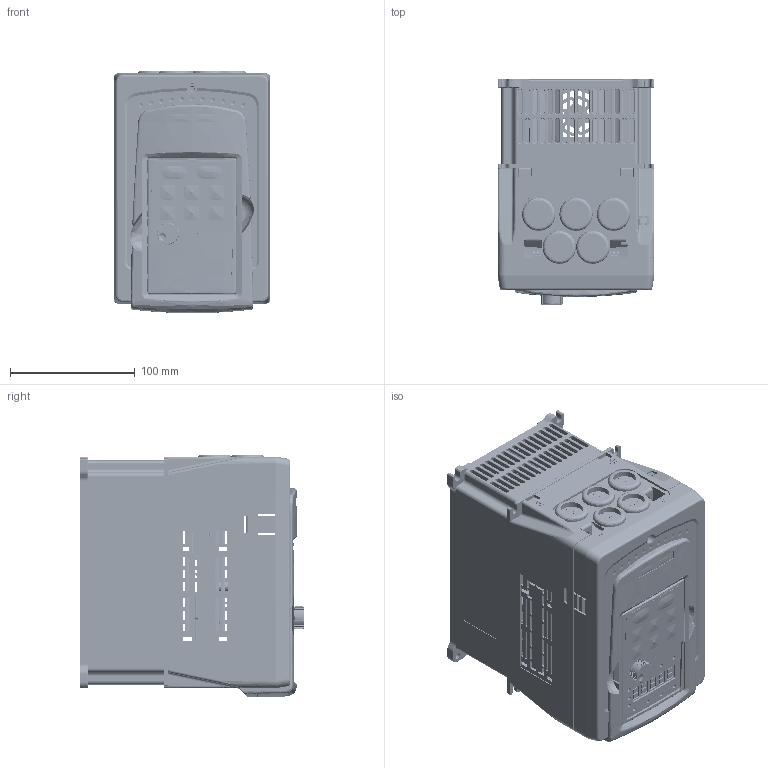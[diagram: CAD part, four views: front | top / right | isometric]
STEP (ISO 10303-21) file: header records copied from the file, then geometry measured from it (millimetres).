
FILE_DESCRIPTION (( 'STEP AP203' ), '1' );
FILE_NAME ('GD310-2R2G-4.STEP', '2020-03-29T12:27:10', ( '' ), ( '' ), 'SwSTEP 2.0', 'SolidWorks 2017', '' );
FILE_SCHEMA (( 'CONFIG_CONTROL_DESIGN' ));
Length unit declared in the file: millimetre
Products named in the file (37): PRT-001; ASM_001; PRT-010; PRT-012; PRT-009; PRT-003; PRT-019; PRT-013; PRT-020; PRT-008; GD310-2R2G-4; PRT-006; PRT-005; PRT-002; PRT-007; PRT-004; ASM_005
Assembly tree (22 placements, depth 3):
  PRT-010
  PRT-019
  PRT-001
  PRT-013
  GD310-2R2G-4
    ASM_005
      PRT-006
      PRT-004
      PRT-020
      PRT-005
      PRT-019
      PRT-012
    ASM_001
      PRT-003
      PRT-013  x3
    PRT-008
    PRT-002
    PRT-009
    PRT-010
    PRT-007
    PRT-001  x5
Bounding box: 126 x 180.45 x 194.61 mm (x, y, z)
Volume: 405855.9 mm3; surface area: 546380.2 mm2
Topology: 18 solids, 22 shells, 6757 faces, 18850 edges, 12268 vertices
Faces by surface type: plane 3644, cylinder 1710, bspline 1141, cone 244, torus 18
Entity records: 269786 total; most frequent: CARTESIAN_POINT 111493, ORIENTED_EDGE 36174, DIRECTION 26010, EDGE_CURVE 18110, VERTEX_POINT 11811, LINE 11124, VECTOR 11124, AXIS2_PLACEMENT_3D 7443
